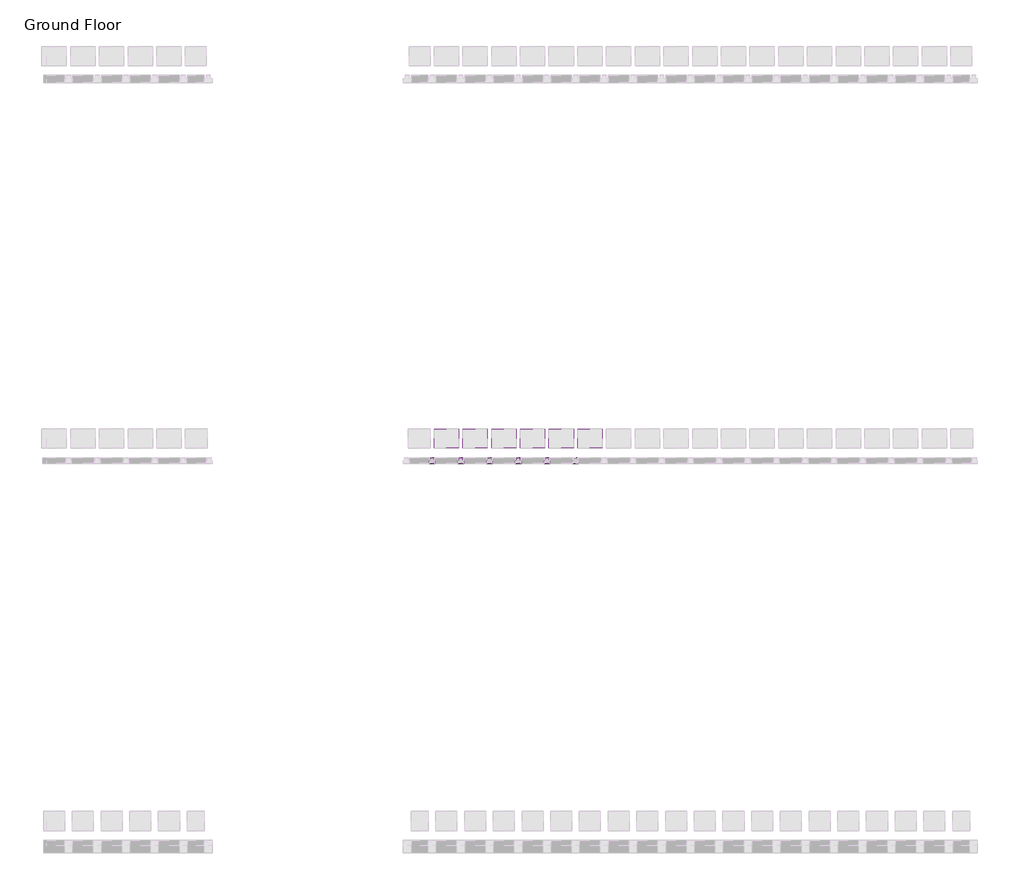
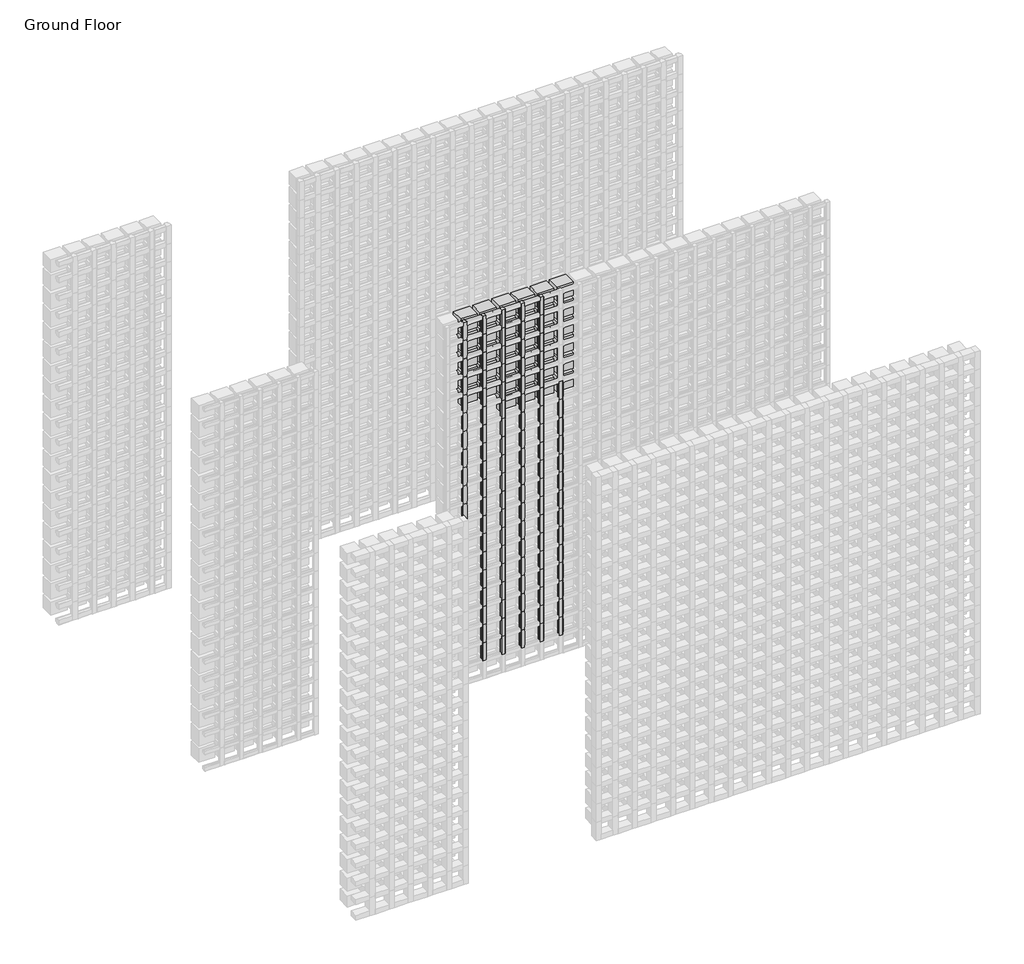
# One storey, part 104 of 350: 109 members, 34 plates.
"""IFC4 building model written with IfcOpenShell, lengths in millimetres."""

from ifc_helpers import new_model, si_unit, origin, place, context, project, spatial, transform, mapped, element, save
from components import rectangular_mullion_f1976eb1, empty_system_panel_empty_5a3607ba, empty_system_panel_empty_babc703c

model = new_model("IFC4")

# Units and contexts
model_context = context("Model", 3, world=origin())
ifc_project = project(units=[si_unit("LENGTHUNIT", "METRE", prefix="MILLI")], contexts=[model_context])

# Site, building, storey
site = spatial("IfcSite", under=ifc_project)
building = spatial("IfcBuilding", under=site)
storey = spatial("IfcBuildingStorey", under=building, Name="Ground Floor", Elevation=0.0)

# Members
placement = place(None, origin())
rectangular_mullion_shape = rectangular_mullion_f1976eb1(model_context)
element("IfcMember", 1, ObjectType="Rectangular Mullion : Batten_Timber_Modinex_Austratus_Grid_Fin_30x30_Blackbutt", at=placement, inside=storey, context=model_context, shape_type="MappedRepresentation", body=[
    mapped(rectangular_mullion_shape, transform((6066.4361642, 42968.2978302, 150.0), x_axis=(1.0, 0.0, 0.0), y_axis=(0.0, -1.0, 0.0), z_axis=(0.0, 0.0, -1.0))),
])
element("IfcMember", 2, ObjectType="Rectangular Mullion : Batten_Timber_Modinex_Austratus_Grid_Fin_30x30_Blackbutt", at=placement, inside=storey, context=model_context, shape_type="MappedRepresentation", body=[
    mapped(rectangular_mullion_shape, transform((6066.4361642, 42968.2978302, 300.0), x_axis=(1.0, 0.0, 0.0), y_axis=(0.0, -1.0, 0.0), z_axis=(0.0, 0.0, -1.0))),
])
element("IfcMember", 3, ObjectType="Rectangular Mullion : Batten_Timber_Modinex_Austratus_Grid_Fin_30x30_Blackbutt", at=placement, inside=storey, context=model_context, shape_type="MappedRepresentation", body=[
    mapped(rectangular_mullion_shape, transform((6066.4361642, 42968.2978302, 450.0), x_axis=(1.0, 0.0, 0.0), y_axis=(0.0, -1.0, 0.0), z_axis=(0.0, 0.0, -1.0))),
])
element("IfcMember", 4, ObjectType="Rectangular Mullion : Batten_Timber_Modinex_Austratus_Grid_Fin_30x30_Blackbutt", at=placement, inside=storey, context=model_context, shape_type="MappedRepresentation", body=[
    mapped(rectangular_mullion_shape, transform((6066.4361642, 42968.2978302, 600.0), x_axis=(1.0, 0.0, 0.0), y_axis=(0.0, -1.0, 0.0), z_axis=(0.0, 0.0, -1.0))),
])
element("IfcMember", 5, ObjectType="Rectangular Mullion : Batten_Timber_Modinex_Austratus_Grid_Fin_30x30_Blackbutt", at=placement, inside=storey, context=model_context, shape_type="MappedRepresentation", body=[
    mapped(rectangular_mullion_shape, transform((6066.4361642, 42968.2978302, 750.0), x_axis=(1.0, 0.0, 0.0), y_axis=(0.0, -1.0, 0.0), z_axis=(0.0, 0.0, -1.0))),
])
element("IfcMember", 6, ObjectType="Rectangular Mullion : Batten_Timber_Modinex_Austratus_Grid_Fin_30x30_Blackbutt", at=placement, inside=storey, context=model_context, shape_type="MappedRepresentation", body=[
    mapped(rectangular_mullion_shape, transform((6066.4361642, 42968.2978302, 900.0), x_axis=(1.0, 0.0, 0.0), y_axis=(0.0, -1.0, 0.0), z_axis=(0.0, 0.0, -1.0))),
])
element("IfcMember", 7, ObjectType="Rectangular Mullion : Batten_Timber_Modinex_Austratus_Grid_Fin_30x30_Blackbutt", at=placement, inside=storey, context=model_context, shape_type="MappedRepresentation", body=[
    mapped(rectangular_mullion_shape, transform((6066.4361642, 42968.2978302, 1050.0), x_axis=(1.0, 0.0, 0.0), y_axis=(0.0, -1.0, 0.0), z_axis=(0.0, 0.0, -1.0))),
])
element("IfcMember", 8, ObjectType="Rectangular Mullion : Batten_Timber_Modinex_Austratus_Grid_Fin_30x30_Blackbutt", at=placement, inside=storey, context=model_context, shape_type="MappedRepresentation", body=[
    mapped(rectangular_mullion_shape, transform((6066.4361642, 42968.2978302, 1200.0), x_axis=(1.0, 0.0, 0.0), y_axis=(0.0, -1.0, 0.0), z_axis=(0.0, 0.0, -1.0))),
])
element("IfcMember", 9, ObjectType="Rectangular Mullion : Batten_Timber_Modinex_Austratus_Grid_Fin_30x30_Blackbutt", at=placement, inside=storey, context=model_context, shape_type="MappedRepresentation", body=[
    mapped(rectangular_mullion_shape, transform((6066.4361642, 42968.2978302, 1350.0), x_axis=(1.0, 0.0, 0.0), y_axis=(0.0, -1.0, 0.0), z_axis=(0.0, 0.0, -1.0))),
])
element("IfcMember", 10, ObjectType="Rectangular Mullion : Batten_Timber_Modinex_Austratus_Grid_Fin_30x30_Blackbutt", at=placement, inside=storey, context=model_context, shape_type="MappedRepresentation", body=[
    mapped(rectangular_mullion_shape, transform((6066.4361642, 42968.2978302, 1500.0), x_axis=(1.0, 0.0, 0.0), y_axis=(0.0, -1.0, 0.0), z_axis=(0.0, 0.0, -1.0))),
])
element("IfcMember", 11, ObjectType="Rectangular Mullion : Batten_Timber_Modinex_Austratus_Grid_Fin_30x30_Blackbutt", at=placement, inside=storey, context=model_context, shape_type="MappedRepresentation", body=[
    mapped(rectangular_mullion_shape, transform((6066.4361642, 42968.2978302, 1650.0), x_axis=(1.0, 0.0, 0.0), y_axis=(0.0, -1.0, 0.0), z_axis=(0.0, 0.0, -1.0))),
])
element("IfcMember", 12, ObjectType="Rectangular Mullion : Batten_Timber_Modinex_Austratus_Grid_Fin_30x30_Blackbutt", at=placement, inside=storey, context=model_context, shape_type="MappedRepresentation", body=[
    mapped(rectangular_mullion_shape, transform((6066.4361642, 42968.2978302, 1800.0), x_axis=(1.0, 0.0, 0.0), y_axis=(0.0, -1.0, 0.0), z_axis=(0.0, 0.0, -1.0))),
])
element("IfcMember", 13, ObjectType="Rectangular Mullion : Batten_Timber_Modinex_Austratus_Grid_Fin_30x30_Blackbutt", at=placement, inside=storey, context=model_context, shape_type="MappedRepresentation", body=[
    mapped(rectangular_mullion_shape, transform((6066.4361642, 42968.2978302, 1950.0), x_axis=(1.0, 0.0, 0.0), y_axis=(0.0, -1.0, 0.0), z_axis=(0.0, 0.0, -1.0))),
])
element("IfcMember", 14, ObjectType="Rectangular Mullion : Batten_Timber_Modinex_Austratus_Grid_Fin_30x30_Blackbutt", at=placement, inside=storey, context=model_context, shape_type="MappedRepresentation", body=[
    mapped(rectangular_mullion_shape, transform((6066.4361642, 42968.2978302, 2100.0), x_axis=(1.0, 0.0, 0.0), y_axis=(0.0, -1.0, 0.0), z_axis=(0.0, 0.0, -1.0))),
])
element("IfcMember", 15, ObjectType="Rectangular Mullion : Batten_Timber_Modinex_Austratus_Grid_Fin_30x30_Blackbutt", at=placement, inside=storey, context=model_context, shape_type="MappedRepresentation", body=[
    mapped(rectangular_mullion_shape, transform((6066.4361642, 42968.2978302, 2250.0), x_axis=(1.0, 0.0, 0.0), y_axis=(0.0, -1.0, 0.0), z_axis=(0.0, 0.0, -1.0))),
])
element("IfcMember", 16, ObjectType="Rectangular Mullion : Batten_Timber_Modinex_Austratus_Grid_Fin_30x30_Blackbutt", at=placement, inside=storey, context=model_context, shape_type="MappedRepresentation", body=[
    mapped(rectangular_mullion_shape, transform((6066.4361642, 42968.2978302, 2400.0), x_axis=(1.0, 0.0, 0.0), y_axis=(0.0, -1.0, 0.0), z_axis=(0.0, 0.0, -1.0))),
])
element("IfcMember", 17, ObjectType="Rectangular Mullion : Batten_Timber_Modinex_Austratus_Grid_Fin_30x30_Blackbutt", at=placement, inside=storey, context=model_context, shape_type="MappedRepresentation", body=[
    mapped(rectangular_mullion_shape, transform((6066.4361642, 42968.2978302, 2550.0), x_axis=(1.0, 0.0, 0.0), y_axis=(0.0, -1.0, 0.0), z_axis=(0.0, 0.0, -1.0))),
])
element("IfcMember", 18, ObjectType="Rectangular Mullion : Batten_Timber_Modinex_Austratus_Grid_Fin_30x30_Blackbutt", at=placement, inside=storey, context=model_context, shape_type="MappedRepresentation", body=[
    mapped(rectangular_mullion_shape, transform((6066.4361642, 42968.2978302, 2700.0), x_axis=(1.0, 0.0, 0.0), y_axis=(0.0, -1.0, 0.0), z_axis=(0.0, 0.0, -1.0))),
])
element("IfcMember", 19, ObjectType="Rectangular Mullion : Batten_Timber_Modinex_Austratus_Grid_Fin_30x30_Blackbutt", at=placement, inside=storey, context=model_context, shape_type="MappedRepresentation", body=[
    mapped(rectangular_mullion_shape, transform((6216.4361642, 42968.2978302, 150.0), x_axis=(1.0, 0.0, 0.0), y_axis=(0.0, -1.0, 0.0), z_axis=(0.0, 0.0, -1.0))),
])
element("IfcMember", 20, ObjectType="Rectangular Mullion : Batten_Timber_Modinex_Austratus_Grid_Fin_30x30_Blackbutt", at=placement, inside=storey, context=model_context, shape_type="MappedRepresentation", body=[
    mapped(rectangular_mullion_shape, transform((6216.4361642, 42968.2978302, 300.0), x_axis=(1.0, 0.0, 0.0), y_axis=(0.0, -1.0, 0.0), z_axis=(0.0, 0.0, -1.0))),
])
element("IfcMember", 21, ObjectType="Rectangular Mullion : Batten_Timber_Modinex_Austratus_Grid_Fin_30x30_Blackbutt", at=placement, inside=storey, context=model_context, shape_type="MappedRepresentation", body=[
    mapped(rectangular_mullion_shape, transform((6216.4361642, 42968.2978302, 450.0), x_axis=(1.0, 0.0, 0.0), y_axis=(0.0, -1.0, 0.0), z_axis=(0.0, 0.0, -1.0))),
])
element("IfcMember", 22, ObjectType="Rectangular Mullion : Batten_Timber_Modinex_Austratus_Grid_Fin_30x30_Blackbutt", at=placement, inside=storey, context=model_context, shape_type="MappedRepresentation", body=[
    mapped(rectangular_mullion_shape, transform((6216.4361642, 42968.2978302, 600.0), x_axis=(1.0, 0.0, 0.0), y_axis=(0.0, -1.0, 0.0), z_axis=(0.0, 0.0, -1.0))),
])
element("IfcMember", 23, ObjectType="Rectangular Mullion : Batten_Timber_Modinex_Austratus_Grid_Fin_30x30_Blackbutt", at=placement, inside=storey, context=model_context, shape_type="MappedRepresentation", body=[
    mapped(rectangular_mullion_shape, transform((6216.4361642, 42968.2978302, 750.0), x_axis=(1.0, 0.0, 0.0), y_axis=(0.0, -1.0, 0.0), z_axis=(0.0, 0.0, -1.0))),
])
element("IfcMember", 24, ObjectType="Rectangular Mullion : Batten_Timber_Modinex_Austratus_Grid_Fin_30x30_Blackbutt", at=placement, inside=storey, context=model_context, shape_type="MappedRepresentation", body=[
    mapped(rectangular_mullion_shape, transform((6216.4361642, 42968.2978302, 900.0), x_axis=(1.0, 0.0, 0.0), y_axis=(0.0, -1.0, 0.0), z_axis=(0.0, 0.0, -1.0))),
])
element("IfcMember", 25, ObjectType="Rectangular Mullion : Batten_Timber_Modinex_Austratus_Grid_Fin_30x30_Blackbutt", at=placement, inside=storey, context=model_context, shape_type="MappedRepresentation", body=[
    mapped(rectangular_mullion_shape, transform((6216.4361642, 42968.2978302, 1050.0), x_axis=(1.0, 0.0, 0.0), y_axis=(0.0, -1.0, 0.0), z_axis=(0.0, 0.0, -1.0))),
])
element("IfcMember", 26, ObjectType="Rectangular Mullion : Batten_Timber_Modinex_Austratus_Grid_Fin_30x30_Blackbutt", at=placement, inside=storey, context=model_context, shape_type="MappedRepresentation", body=[
    mapped(rectangular_mullion_shape, transform((6216.4361642, 42968.2978302, 1200.0), x_axis=(1.0, 0.0, 0.0), y_axis=(0.0, -1.0, 0.0), z_axis=(0.0, 0.0, -1.0))),
])
element("IfcMember", 27, ObjectType="Rectangular Mullion : Batten_Timber_Modinex_Austratus_Grid_Fin_30x30_Blackbutt", at=placement, inside=storey, context=model_context, shape_type="MappedRepresentation", body=[
    mapped(rectangular_mullion_shape, transform((6216.4361642, 42968.2978302, 1350.0), x_axis=(1.0, 0.0, 0.0), y_axis=(0.0, -1.0, 0.0), z_axis=(0.0, 0.0, -1.0))),
])
element("IfcMember", 28, ObjectType="Rectangular Mullion : Batten_Timber_Modinex_Austratus_Grid_Fin_30x30_Blackbutt", at=placement, inside=storey, context=model_context, shape_type="MappedRepresentation", body=[
    mapped(rectangular_mullion_shape, transform((6216.4361642, 42968.2978302, 1500.0), x_axis=(1.0, 0.0, 0.0), y_axis=(0.0, -1.0, 0.0), z_axis=(0.0, 0.0, -1.0))),
])
element("IfcMember", 29, ObjectType="Rectangular Mullion : Batten_Timber_Modinex_Austratus_Grid_Fin_30x30_Blackbutt", at=placement, inside=storey, context=model_context, shape_type="MappedRepresentation", body=[
    mapped(rectangular_mullion_shape, transform((6216.4361642, 42968.2978302, 1650.0), x_axis=(1.0, 0.0, 0.0), y_axis=(0.0, -1.0, 0.0), z_axis=(0.0, 0.0, -1.0))),
])
element("IfcMember", 30, ObjectType="Rectangular Mullion : Batten_Timber_Modinex_Austratus_Grid_Fin_30x30_Blackbutt", at=placement, inside=storey, context=model_context, shape_type="MappedRepresentation", body=[
    mapped(rectangular_mullion_shape, transform((6216.4361642, 42968.2978302, 1800.0), x_axis=(1.0, 0.0, 0.0), y_axis=(0.0, -1.0, 0.0), z_axis=(0.0, 0.0, -1.0))),
])
element("IfcMember", 31, ObjectType="Rectangular Mullion : Batten_Timber_Modinex_Austratus_Grid_Fin_30x30_Blackbutt", at=placement, inside=storey, context=model_context, shape_type="MappedRepresentation", body=[
    mapped(rectangular_mullion_shape, transform((6216.4361642, 42968.2978302, 1950.0), x_axis=(1.0, 0.0, 0.0), y_axis=(0.0, -1.0, 0.0), z_axis=(0.0, 0.0, -1.0))),
])
element("IfcMember", 32, ObjectType="Rectangular Mullion : Batten_Timber_Modinex_Austratus_Grid_Fin_30x30_Blackbutt", at=placement, inside=storey, context=model_context, shape_type="MappedRepresentation", body=[
    mapped(rectangular_mullion_shape, transform((6216.4361642, 42968.2978302, 2100.0), x_axis=(1.0, 0.0, 0.0), y_axis=(0.0, -1.0, 0.0), z_axis=(0.0, 0.0, -1.0))),
])
element("IfcMember", 33, ObjectType="Rectangular Mullion : Batten_Timber_Modinex_Austratus_Grid_Fin_30x30_Blackbutt", at=placement, inside=storey, context=model_context, shape_type="MappedRepresentation", body=[
    mapped(rectangular_mullion_shape, transform((6216.4361642, 42968.2978302, 2250.0), x_axis=(1.0, 0.0, 0.0), y_axis=(0.0, -1.0, 0.0), z_axis=(0.0, 0.0, -1.0))),
])
element("IfcMember", 34, ObjectType="Rectangular Mullion : Batten_Timber_Modinex_Austratus_Grid_Fin_30x30_Blackbutt", at=placement, inside=storey, context=model_context, shape_type="MappedRepresentation", body=[
    mapped(rectangular_mullion_shape, transform((6216.4361642, 42968.2978302, 2400.0), x_axis=(1.0, 0.0, 0.0), y_axis=(0.0, -1.0, 0.0), z_axis=(0.0, 0.0, -1.0))),
])
element("IfcMember", 35, ObjectType="Rectangular Mullion : Batten_Timber_Modinex_Austratus_Grid_Fin_30x30_Blackbutt", at=placement, inside=storey, context=model_context, shape_type="MappedRepresentation", body=[
    mapped(rectangular_mullion_shape, transform((6216.4361642, 42968.2978302, 2550.0), x_axis=(1.0, 0.0, 0.0), y_axis=(0.0, -1.0, 0.0), z_axis=(0.0, 0.0, -1.0))),
])
element("IfcMember", 36, ObjectType="Rectangular Mullion : Batten_Timber_Modinex_Austratus_Grid_Fin_30x30_Blackbutt", at=placement, inside=storey, context=model_context, shape_type="MappedRepresentation", body=[
    mapped(rectangular_mullion_shape, transform((6216.4361642, 42968.2978302, 2700.0), x_axis=(1.0, 0.0, 0.0), y_axis=(0.0, -1.0, 0.0), z_axis=(0.0, 0.0, -1.0))),
])
element("IfcMember", 37, ObjectType="Rectangular Mullion : Batten_Timber_Modinex_Austratus_Grid_Fin_30x30_Blackbutt", at=placement, inside=storey, context=model_context, shape_type="MappedRepresentation", body=[
    mapped(rectangular_mullion_shape, transform((6366.4361642, 42968.2978302, 150.0), x_axis=(1.0, 0.0, 0.0), y_axis=(0.0, -1.0, 0.0), z_axis=(0.0, 0.0, -1.0))),
])
element("IfcMember", 38, ObjectType="Rectangular Mullion : Batten_Timber_Modinex_Austratus_Grid_Fin_30x30_Blackbutt", at=placement, inside=storey, context=model_context, shape_type="MappedRepresentation", body=[
    mapped(rectangular_mullion_shape, transform((6366.4361642, 42968.2978302, 300.0), x_axis=(1.0, 0.0, 0.0), y_axis=(0.0, -1.0, 0.0), z_axis=(0.0, 0.0, -1.0))),
])
element("IfcMember", 39, ObjectType="Rectangular Mullion : Batten_Timber_Modinex_Austratus_Grid_Fin_30x30_Blackbutt", at=placement, inside=storey, context=model_context, shape_type="MappedRepresentation", body=[
    mapped(rectangular_mullion_shape, transform((6366.4361642, 42968.2978302, 450.0), x_axis=(1.0, 0.0, 0.0), y_axis=(0.0, -1.0, 0.0), z_axis=(0.0, 0.0, -1.0))),
])
element("IfcMember", 40, ObjectType="Rectangular Mullion : Batten_Timber_Modinex_Austratus_Grid_Fin_30x30_Blackbutt", at=placement, inside=storey, context=model_context, shape_type="MappedRepresentation", body=[
    mapped(rectangular_mullion_shape, transform((6366.4361642, 42968.2978302, 600.0), x_axis=(1.0, 0.0, 0.0), y_axis=(0.0, -1.0, 0.0), z_axis=(0.0, 0.0, -1.0))),
])
element("IfcMember", 41, ObjectType="Rectangular Mullion : Batten_Timber_Modinex_Austratus_Grid_Fin_30x30_Blackbutt", at=placement, inside=storey, context=model_context, shape_type="MappedRepresentation", body=[
    mapped(rectangular_mullion_shape, transform((6366.4361642, 42968.2978302, 750.0), x_axis=(1.0, 0.0, 0.0), y_axis=(0.0, -1.0, 0.0), z_axis=(0.0, 0.0, -1.0))),
])
element("IfcMember", 42, ObjectType="Rectangular Mullion : Batten_Timber_Modinex_Austratus_Grid_Fin_30x30_Blackbutt", at=placement, inside=storey, context=model_context, shape_type="MappedRepresentation", body=[
    mapped(rectangular_mullion_shape, transform((6366.4361642, 42968.2978302, 900.0), x_axis=(1.0, 0.0, 0.0), y_axis=(0.0, -1.0, 0.0), z_axis=(0.0, 0.0, -1.0))),
])
element("IfcMember", 43, ObjectType="Rectangular Mullion : Batten_Timber_Modinex_Austratus_Grid_Fin_30x30_Blackbutt", at=placement, inside=storey, context=model_context, shape_type="MappedRepresentation", body=[
    mapped(rectangular_mullion_shape, transform((6366.4361642, 42968.2978302, 1050.0), x_axis=(1.0, 0.0, 0.0), y_axis=(0.0, -1.0, 0.0), z_axis=(0.0, 0.0, -1.0))),
])
element("IfcMember", 44, ObjectType="Rectangular Mullion : Batten_Timber_Modinex_Austratus_Grid_Fin_30x30_Blackbutt", at=placement, inside=storey, context=model_context, shape_type="MappedRepresentation", body=[
    mapped(rectangular_mullion_shape, transform((6366.4361642, 42968.2978302, 1200.0), x_axis=(1.0, 0.0, 0.0), y_axis=(0.0, -1.0, 0.0), z_axis=(0.0, 0.0, -1.0))),
])
element("IfcMember", 45, ObjectType="Rectangular Mullion : Batten_Timber_Modinex_Austratus_Grid_Fin_30x30_Blackbutt", at=placement, inside=storey, context=model_context, shape_type="MappedRepresentation", body=[
    mapped(rectangular_mullion_shape, transform((6366.4361642, 42968.2978302, 1350.0), x_axis=(1.0, 0.0, 0.0), y_axis=(0.0, -1.0, 0.0), z_axis=(0.0, 0.0, -1.0))),
])
element("IfcMember", 46, ObjectType="Rectangular Mullion : Batten_Timber_Modinex_Austratus_Grid_Fin_30x30_Blackbutt", at=placement, inside=storey, context=model_context, shape_type="MappedRepresentation", body=[
    mapped(rectangular_mullion_shape, transform((6366.4361642, 42968.2978302, 1500.0), x_axis=(1.0, 0.0, 0.0), y_axis=(0.0, -1.0, 0.0), z_axis=(0.0, 0.0, -1.0))),
])
element("IfcMember", 47, ObjectType="Rectangular Mullion : Batten_Timber_Modinex_Austratus_Grid_Fin_30x30_Blackbutt", at=placement, inside=storey, context=model_context, shape_type="MappedRepresentation", body=[
    mapped(rectangular_mullion_shape, transform((6366.4361642, 42968.2978302, 1650.0), x_axis=(1.0, 0.0, 0.0), y_axis=(0.0, -1.0, 0.0), z_axis=(0.0, 0.0, -1.0))),
])
element("IfcMember", 48, ObjectType="Rectangular Mullion : Batten_Timber_Modinex_Austratus_Grid_Fin_30x30_Blackbutt", at=placement, inside=storey, context=model_context, shape_type="MappedRepresentation", body=[
    mapped(rectangular_mullion_shape, transform((6366.4361642, 42968.2978302, 1800.0), x_axis=(1.0, 0.0, 0.0), y_axis=(0.0, -1.0, 0.0), z_axis=(0.0, 0.0, -1.0))),
])
element("IfcMember", 49, ObjectType="Rectangular Mullion : Batten_Timber_Modinex_Austratus_Grid_Fin_30x30_Blackbutt", at=placement, inside=storey, context=model_context, shape_type="MappedRepresentation", body=[
    mapped(rectangular_mullion_shape, transform((6366.4361642, 42968.2978302, 1950.0), x_axis=(1.0, 0.0, 0.0), y_axis=(0.0, -1.0, 0.0), z_axis=(0.0, 0.0, -1.0))),
])
element("IfcMember", 50, ObjectType="Rectangular Mullion : Batten_Timber_Modinex_Austratus_Grid_Fin_30x30_Blackbutt", at=placement, inside=storey, context=model_context, shape_type="MappedRepresentation", body=[
    mapped(rectangular_mullion_shape, transform((6366.4361642, 42968.2978302, 2100.0), x_axis=(1.0, 0.0, 0.0), y_axis=(0.0, -1.0, 0.0), z_axis=(0.0, 0.0, -1.0))),
])
element("IfcMember", 51, ObjectType="Rectangular Mullion : Batten_Timber_Modinex_Austratus_Grid_Fin_30x30_Blackbutt", at=placement, inside=storey, context=model_context, shape_type="MappedRepresentation", body=[
    mapped(rectangular_mullion_shape, transform((6366.4361642, 42968.2978302, 2250.0), x_axis=(1.0, 0.0, 0.0), y_axis=(0.0, -1.0, 0.0), z_axis=(0.0, 0.0, -1.0))),
])
element("IfcMember", 52, ObjectType="Rectangular Mullion : Batten_Timber_Modinex_Austratus_Grid_Fin_30x30_Blackbutt", at=placement, inside=storey, context=model_context, shape_type="MappedRepresentation", body=[
    mapped(rectangular_mullion_shape, transform((6366.4361642, 42968.2978302, 2400.0), x_axis=(1.0, 0.0, 0.0), y_axis=(0.0, -1.0, 0.0), z_axis=(0.0, 0.0, -1.0))),
])
element("IfcMember", 53, ObjectType="Rectangular Mullion : Batten_Timber_Modinex_Austratus_Grid_Fin_30x30_Blackbutt", at=placement, inside=storey, context=model_context, shape_type="MappedRepresentation", body=[
    mapped(rectangular_mullion_shape, transform((6366.4361642, 42968.2978302, 2550.0), x_axis=(1.0, 0.0, 0.0), y_axis=(0.0, -1.0, 0.0), z_axis=(0.0, 0.0, -1.0))),
])
element("IfcMember", 54, ObjectType="Rectangular Mullion : Batten_Timber_Modinex_Austratus_Grid_Fin_30x30_Blackbutt", at=placement, inside=storey, context=model_context, shape_type="MappedRepresentation", body=[
    mapped(rectangular_mullion_shape, transform((6366.4361642, 42968.2978302, 2700.0), x_axis=(1.0, 0.0, 0.0), y_axis=(0.0, -1.0, 0.0), z_axis=(0.0, 0.0, -1.0))),
])
element("IfcMember", 55, ObjectType="Rectangular Mullion : Batten_Timber_Modinex_Austratus_Grid_Fin_30x30_Blackbutt", at=placement, inside=storey, context=model_context, shape_type="MappedRepresentation", body=[
    mapped(rectangular_mullion_shape, transform((6516.4361642, 42968.2978302, 150.0), x_axis=(1.0, 0.0, 0.0), y_axis=(0.0, -1.0, 0.0), z_axis=(0.0, 0.0, -1.0))),
])
element("IfcMember", 56, ObjectType="Rectangular Mullion : Batten_Timber_Modinex_Austratus_Grid_Fin_30x30_Blackbutt", at=placement, inside=storey, context=model_context, shape_type="MappedRepresentation", body=[
    mapped(rectangular_mullion_shape, transform((6516.4361642, 42968.2978302, 300.0), x_axis=(1.0, 0.0, 0.0), y_axis=(0.0, -1.0, 0.0), z_axis=(0.0, 0.0, -1.0))),
])
element("IfcMember", 57, ObjectType="Rectangular Mullion : Batten_Timber_Modinex_Austratus_Grid_Fin_30x30_Blackbutt", at=placement, inside=storey, context=model_context, shape_type="MappedRepresentation", body=[
    mapped(rectangular_mullion_shape, transform((6516.4361642, 42968.2978302, 450.0), x_axis=(1.0, 0.0, 0.0), y_axis=(0.0, -1.0, 0.0), z_axis=(0.0, 0.0, -1.0))),
])
element("IfcMember", 58, ObjectType="Rectangular Mullion : Batten_Timber_Modinex_Austratus_Grid_Fin_30x30_Blackbutt", at=placement, inside=storey, context=model_context, shape_type="MappedRepresentation", body=[
    mapped(rectangular_mullion_shape, transform((6516.4361642, 42968.2978302, 600.0), x_axis=(1.0, 0.0, 0.0), y_axis=(0.0, -1.0, 0.0), z_axis=(0.0, 0.0, -1.0))),
])
element("IfcMember", 59, ObjectType="Rectangular Mullion : Batten_Timber_Modinex_Austratus_Grid_Fin_30x30_Blackbutt", at=placement, inside=storey, context=model_context, shape_type="MappedRepresentation", body=[
    mapped(rectangular_mullion_shape, transform((6516.4361642, 42968.2978302, 750.0), x_axis=(1.0, 0.0, 0.0), y_axis=(0.0, -1.0, 0.0), z_axis=(0.0, 0.0, -1.0))),
])
element("IfcMember", 60, ObjectType="Rectangular Mullion : Batten_Timber_Modinex_Austratus_Grid_Fin_30x30_Blackbutt", at=placement, inside=storey, context=model_context, shape_type="MappedRepresentation", body=[
    mapped(rectangular_mullion_shape, transform((6516.4361642, 42968.2978302, 900.0), x_axis=(1.0, 0.0, 0.0), y_axis=(0.0, -1.0, 0.0), z_axis=(0.0, 0.0, -1.0))),
])
element("IfcMember", 61, ObjectType="Rectangular Mullion : Batten_Timber_Modinex_Austratus_Grid_Fin_30x30_Blackbutt", at=placement, inside=storey, context=model_context, shape_type="MappedRepresentation", body=[
    mapped(rectangular_mullion_shape, transform((6516.4361642, 42968.2978302, 1050.0), x_axis=(1.0, 0.0, 0.0), y_axis=(0.0, -1.0, 0.0), z_axis=(0.0, 0.0, -1.0))),
])
element("IfcMember", 62, ObjectType="Rectangular Mullion : Batten_Timber_Modinex_Austratus_Grid_Fin_30x30_Blackbutt", at=placement, inside=storey, context=model_context, shape_type="MappedRepresentation", body=[
    mapped(rectangular_mullion_shape, transform((6516.4361642, 42968.2978302, 1200.0), x_axis=(1.0, 0.0, 0.0), y_axis=(0.0, -1.0, 0.0), z_axis=(0.0, 0.0, -1.0))),
])
element("IfcMember", 63, ObjectType="Rectangular Mullion : Batten_Timber_Modinex_Austratus_Grid_Fin_30x30_Blackbutt", at=placement, inside=storey, context=model_context, shape_type="MappedRepresentation", body=[
    mapped(rectangular_mullion_shape, transform((6516.4361642, 42968.2978302, 1350.0), x_axis=(1.0, 0.0, 0.0), y_axis=(0.0, -1.0, 0.0), z_axis=(0.0, 0.0, -1.0))),
])
element("IfcMember", 64, ObjectType="Rectangular Mullion : Batten_Timber_Modinex_Austratus_Grid_Fin_30x30_Blackbutt", at=placement, inside=storey, context=model_context, shape_type="MappedRepresentation", body=[
    mapped(rectangular_mullion_shape, transform((6516.4361642, 42968.2978302, 1500.0), x_axis=(1.0, 0.0, 0.0), y_axis=(0.0, -1.0, 0.0), z_axis=(0.0, 0.0, -1.0))),
])
element("IfcMember", 65, ObjectType="Rectangular Mullion : Batten_Timber_Modinex_Austratus_Grid_Fin_30x30_Blackbutt", at=placement, inside=storey, context=model_context, shape_type="MappedRepresentation", body=[
    mapped(rectangular_mullion_shape, transform((6516.4361642, 42968.2978302, 1650.0), x_axis=(1.0, 0.0, 0.0), y_axis=(0.0, -1.0, 0.0), z_axis=(0.0, 0.0, -1.0))),
])
element("IfcMember", 66, ObjectType="Rectangular Mullion : Batten_Timber_Modinex_Austratus_Grid_Fin_30x30_Blackbutt", at=placement, inside=storey, context=model_context, shape_type="MappedRepresentation", body=[
    mapped(rectangular_mullion_shape, transform((6516.4361642, 42968.2978302, 1800.0), x_axis=(1.0, 0.0, 0.0), y_axis=(0.0, -1.0, 0.0), z_axis=(0.0, 0.0, -1.0))),
])
element("IfcMember", 67, ObjectType="Rectangular Mullion : Batten_Timber_Modinex_Austratus_Grid_Fin_30x30_Blackbutt", at=placement, inside=storey, context=model_context, shape_type="MappedRepresentation", body=[
    mapped(rectangular_mullion_shape, transform((6516.4361642, 42968.2978302, 1950.0), x_axis=(1.0, 0.0, 0.0), y_axis=(0.0, -1.0, 0.0), z_axis=(0.0, 0.0, -1.0))),
])
element("IfcMember", 68, ObjectType="Rectangular Mullion : Batten_Timber_Modinex_Austratus_Grid_Fin_30x30_Blackbutt", at=placement, inside=storey, context=model_context, shape_type="MappedRepresentation", body=[
    mapped(rectangular_mullion_shape, transform((6516.4361642, 42968.2978302, 2100.0), x_axis=(1.0, 0.0, 0.0), y_axis=(0.0, -1.0, 0.0), z_axis=(0.0, 0.0, -1.0))),
])
element("IfcMember", 69, ObjectType="Rectangular Mullion : Batten_Timber_Modinex_Austratus_Grid_Fin_30x30_Blackbutt", at=placement, inside=storey, context=model_context, shape_type="MappedRepresentation", body=[
    mapped(rectangular_mullion_shape, transform((6516.4361642, 42968.2978302, 2250.0), x_axis=(1.0, 0.0, 0.0), y_axis=(0.0, -1.0, 0.0), z_axis=(0.0, 0.0, -1.0))),
])
element("IfcMember", 70, ObjectType="Rectangular Mullion : Batten_Timber_Modinex_Austratus_Grid_Fin_30x30_Blackbutt", at=placement, inside=storey, context=model_context, shape_type="MappedRepresentation", body=[
    mapped(rectangular_mullion_shape, transform((6516.4361642, 42968.2978302, 2400.0), x_axis=(1.0, 0.0, 0.0), y_axis=(0.0, -1.0, 0.0), z_axis=(0.0, 0.0, -1.0))),
])
element("IfcMember", 71, ObjectType="Rectangular Mullion : Batten_Timber_Modinex_Austratus_Grid_Fin_30x30_Blackbutt", at=placement, inside=storey, context=model_context, shape_type="MappedRepresentation", body=[
    mapped(rectangular_mullion_shape, transform((6516.4361642, 42968.2978302, 2550.0), x_axis=(1.0, 0.0, 0.0), y_axis=(0.0, -1.0, 0.0), z_axis=(0.0, 0.0, -1.0))),
])
element("IfcMember", 72, ObjectType="Rectangular Mullion : Batten_Timber_Modinex_Austratus_Grid_Fin_30x30_Blackbutt", at=placement, inside=storey, context=model_context, shape_type="MappedRepresentation", body=[
    mapped(rectangular_mullion_shape, transform((6516.4361642, 42968.2978302, 2700.0), x_axis=(1.0, 0.0, 0.0), y_axis=(0.0, -1.0, 0.0), z_axis=(0.0, 0.0, -1.0))),
])
element("IfcMember", 73, ObjectType="Rectangular Mullion : Batten_Timber_Modinex_Austratus_Grid_Fin_30x30_Blackbutt", at=placement, inside=storey, context=model_context, shape_type="MappedRepresentation", body=[
    mapped(rectangular_mullion_shape, transform((6666.4361642, 42968.2978302, 150.0), x_axis=(1.0, 0.0, 0.0), y_axis=(0.0, -1.0, 0.0), z_axis=(0.0, 0.0, -1.0))),
])
element("IfcMember", 74, ObjectType="Rectangular Mullion : Batten_Timber_Modinex_Austratus_Grid_Fin_30x30_Blackbutt", at=placement, inside=storey, context=model_context, shape_type="MappedRepresentation", body=[
    mapped(rectangular_mullion_shape, transform((6666.4361642, 42968.2978302, 300.0), x_axis=(1.0, 0.0, 0.0), y_axis=(0.0, -1.0, 0.0), z_axis=(0.0, 0.0, -1.0))),
])
element("IfcMember", 75, ObjectType="Rectangular Mullion : Batten_Timber_Modinex_Austratus_Grid_Fin_30x30_Blackbutt", at=placement, inside=storey, context=model_context, shape_type="MappedRepresentation", body=[
    mapped(rectangular_mullion_shape, transform((6666.4361642, 42968.2978302, 450.0), x_axis=(1.0, 0.0, 0.0), y_axis=(0.0, -1.0, 0.0), z_axis=(0.0, 0.0, -1.0))),
])
element("IfcMember", 76, ObjectType="Rectangular Mullion : Batten_Timber_Modinex_Austratus_Grid_Fin_30x30_Blackbutt", at=placement, inside=storey, context=model_context, shape_type="MappedRepresentation", body=[
    mapped(rectangular_mullion_shape, transform((6666.4361642, 42968.2978302, 600.0), x_axis=(1.0, 0.0, 0.0), y_axis=(0.0, -1.0, 0.0), z_axis=(0.0, 0.0, -1.0))),
])
element("IfcMember", 77, ObjectType="Rectangular Mullion : Batten_Timber_Modinex_Austratus_Grid_Fin_30x30_Blackbutt", at=placement, inside=storey, context=model_context, shape_type="MappedRepresentation", body=[
    mapped(rectangular_mullion_shape, transform((6666.4361642, 42968.2978302, 750.0), x_axis=(1.0, 0.0, 0.0), y_axis=(0.0, -1.0, 0.0), z_axis=(0.0, 0.0, -1.0))),
])
element("IfcMember", 78, ObjectType="Rectangular Mullion : Batten_Timber_Modinex_Austratus_Grid_Fin_30x30_Blackbutt", at=placement, inside=storey, context=model_context, shape_type="MappedRepresentation", body=[
    mapped(rectangular_mullion_shape, transform((6666.4361642, 42968.2978302, 900.0), x_axis=(1.0, 0.0, 0.0), y_axis=(0.0, -1.0, 0.0), z_axis=(0.0, 0.0, -1.0))),
])
element("IfcMember", 79, ObjectType="Rectangular Mullion : Batten_Timber_Modinex_Austratus_Grid_Fin_30x30_Blackbutt", at=placement, inside=storey, context=model_context, shape_type="MappedRepresentation", body=[
    mapped(rectangular_mullion_shape, transform((6666.4361642, 42968.2978302, 1050.0), x_axis=(1.0, 0.0, 0.0), y_axis=(0.0, -1.0, 0.0), z_axis=(0.0, 0.0, -1.0))),
])
element("IfcMember", 80, ObjectType="Rectangular Mullion : Batten_Timber_Modinex_Austratus_Grid_Fin_30x30_Blackbutt", at=placement, inside=storey, context=model_context, shape_type="MappedRepresentation", body=[
    mapped(rectangular_mullion_shape, transform((6666.4361642, 42968.2978302, 1200.0), x_axis=(1.0, 0.0, 0.0), y_axis=(0.0, -1.0, 0.0), z_axis=(0.0, 0.0, -1.0))),
])
element("IfcMember", 81, ObjectType="Rectangular Mullion : Batten_Timber_Modinex_Austratus_Grid_Fin_30x30_Blackbutt", at=placement, inside=storey, context=model_context, shape_type="MappedRepresentation", body=[
    mapped(rectangular_mullion_shape, transform((6666.4361642, 42968.2978302, 1350.0), x_axis=(1.0, 0.0, 0.0), y_axis=(0.0, -1.0, 0.0), z_axis=(0.0, 0.0, -1.0))),
])
element("IfcMember", 82, ObjectType="Rectangular Mullion : Batten_Timber_Modinex_Austratus_Grid_Fin_30x30_Blackbutt", at=placement, inside=storey, context=model_context, shape_type="MappedRepresentation", body=[
    mapped(rectangular_mullion_shape, transform((6666.4361642, 42968.2978302, 1500.0), x_axis=(1.0, 0.0, 0.0), y_axis=(0.0, -1.0, 0.0), z_axis=(0.0, 0.0, -1.0))),
])
element("IfcMember", 83, ObjectType="Rectangular Mullion : Batten_Timber_Modinex_Austratus_Grid_Fin_30x30_Blackbutt", at=placement, inside=storey, context=model_context, shape_type="MappedRepresentation", body=[
    mapped(rectangular_mullion_shape, transform((6666.4361642, 42968.2978302, 1650.0), x_axis=(1.0, 0.0, 0.0), y_axis=(0.0, -1.0, 0.0), z_axis=(0.0, 0.0, -1.0))),
])
element("IfcMember", 84, ObjectType="Rectangular Mullion : Batten_Timber_Modinex_Austratus_Grid_Fin_30x30_Blackbutt", at=placement, inside=storey, context=model_context, shape_type="MappedRepresentation", body=[
    mapped(rectangular_mullion_shape, transform((6666.4361642, 42968.2978302, 1800.0), x_axis=(1.0, 0.0, 0.0), y_axis=(0.0, -1.0, 0.0), z_axis=(0.0, 0.0, -1.0))),
])
element("IfcMember", 85, ObjectType="Rectangular Mullion : Batten_Timber_Modinex_Austratus_Grid_Fin_30x30_Blackbutt", at=placement, inside=storey, context=model_context, shape_type="MappedRepresentation", body=[
    mapped(rectangular_mullion_shape, transform((6666.4361642, 42968.2978302, 1950.0), x_axis=(1.0, 0.0, 0.0), y_axis=(0.0, -1.0, 0.0), z_axis=(0.0, 0.0, -1.0))),
])
element("IfcMember", 86, ObjectType="Rectangular Mullion : Batten_Timber_Modinex_Austratus_Grid_Fin_30x30_Blackbutt", at=placement, inside=storey, context=model_context, shape_type="MappedRepresentation", body=[
    mapped(rectangular_mullion_shape, transform((6666.4361642, 42968.2978302, 2100.0), x_axis=(1.0, 0.0, 0.0), y_axis=(0.0, -1.0, 0.0), z_axis=(0.0, 0.0, -1.0))),
])
element("IfcMember", 87, ObjectType="Rectangular Mullion : Batten_Timber_Modinex_Austratus_Grid_Fin_30x30_Blackbutt", at=placement, inside=storey, context=model_context, shape_type="MappedRepresentation", body=[
    mapped(rectangular_mullion_shape, transform((6666.4361642, 42968.2978302, 2250.0), x_axis=(1.0, 0.0, 0.0), y_axis=(0.0, -1.0, 0.0), z_axis=(0.0, 0.0, -1.0))),
])
element("IfcMember", 88, ObjectType="Rectangular Mullion : Batten_Timber_Modinex_Austratus_Grid_Fin_30x30_Blackbutt", at=placement, inside=storey, context=model_context, shape_type="MappedRepresentation", body=[
    mapped(rectangular_mullion_shape, transform((6666.4361642, 42968.2978302, 2400.0), x_axis=(1.0, 0.0, 0.0), y_axis=(0.0, -1.0, 0.0), z_axis=(0.0, 0.0, -1.0))),
])
element("IfcMember", 89, ObjectType="Rectangular Mullion : Batten_Timber_Modinex_Austratus_Grid_Fin_30x30_Blackbutt", at=placement, inside=storey, context=model_context, shape_type="MappedRepresentation", body=[
    mapped(rectangular_mullion_shape, transform((6666.4361642, 42968.2978302, 2550.0), x_axis=(1.0, 0.0, 0.0), y_axis=(0.0, -1.0, 0.0), z_axis=(0.0, 0.0, -1.0))),
])
element("IfcMember", 90, ObjectType="Rectangular Mullion : Batten_Timber_Modinex_Austratus_Grid_Fin_30x30_Blackbutt", at=placement, inside=storey, context=model_context, shape_type="MappedRepresentation", body=[
    mapped(rectangular_mullion_shape, transform((6666.4361642, 42968.2978302, 2700.0), x_axis=(1.0, 0.0, 0.0), y_axis=(0.0, -1.0, 0.0), z_axis=(0.0, 0.0, -1.0))),
])
element("IfcMember", 91, ObjectType="Rectangular Mullion : Batten_Timber_Modinex_Austratus_Grid_Fin_30x30_Blackbutt", at=placement, inside=storey, context=model_context, shape_type="MappedRepresentation", body=[
    mapped(rectangular_mullion_shape, transform((6816.4361642, 42968.2978302, 150.0), x_axis=(1.0, 0.0, 0.0), y_axis=(0.0, -1.0, 0.0), z_axis=(0.0, 0.0, -1.0))),
])
element("IfcMember", 92, ObjectType="Rectangular Mullion : Batten_Timber_Modinex_Austratus_Grid_Fin_30x30_Blackbutt", at=placement, inside=storey, context=model_context, shape_type="MappedRepresentation", body=[
    mapped(rectangular_mullion_shape, transform((6816.4361642, 42968.2978302, 300.0), x_axis=(1.0, 0.0, 0.0), y_axis=(0.0, -1.0, 0.0), z_axis=(0.0, 0.0, -1.0))),
])
element("IfcMember", 93, ObjectType="Rectangular Mullion : Batten_Timber_Modinex_Austratus_Grid_Fin_30x30_Blackbutt", at=placement, inside=storey, context=model_context, shape_type="MappedRepresentation", body=[
    mapped(rectangular_mullion_shape, transform((6816.4361642, 42968.2978302, 450.0), x_axis=(1.0, 0.0, 0.0), y_axis=(0.0, -1.0, 0.0), z_axis=(0.0, 0.0, -1.0))),
])
element("IfcMember", 94, ObjectType="Rectangular Mullion : Batten_Timber_Modinex_Austratus_Grid_Fin_30x30_Blackbutt", at=placement, inside=storey, context=model_context, shape_type="MappedRepresentation", body=[
    mapped(rectangular_mullion_shape, transform((6816.4361642, 42968.2978302, 600.0), x_axis=(1.0, 0.0, 0.0), y_axis=(0.0, -1.0, 0.0), z_axis=(0.0, 0.0, -1.0))),
])
element("IfcMember", 95, ObjectType="Rectangular Mullion : Batten_Timber_Modinex_Austratus_Grid_Fin_30x30_Blackbutt", at=placement, inside=storey, context=model_context, shape_type="MappedRepresentation", body=[
    mapped(rectangular_mullion_shape, transform((6816.4361642, 42968.2978302, 750.0), x_axis=(1.0, 0.0, 0.0), y_axis=(0.0, -1.0, 0.0), z_axis=(0.0, 0.0, -1.0))),
])
element("IfcMember", 96, ObjectType="Rectangular Mullion : Batten_Timber_Modinex_Austratus_Grid_Fin_30x30_Blackbutt", at=placement, inside=storey, context=model_context, shape_type="MappedRepresentation", body=[
    mapped(rectangular_mullion_shape, transform((6816.4361642, 42968.2978302, 900.0), x_axis=(1.0, 0.0, 0.0), y_axis=(0.0, -1.0, 0.0), z_axis=(0.0, 0.0, -1.0))),
])
element("IfcMember", 97, ObjectType="Rectangular Mullion : Batten_Timber_Modinex_Austratus_Grid_Fin_30x30_Blackbutt", at=placement, inside=storey, context=model_context, shape_type="MappedRepresentation", body=[
    mapped(rectangular_mullion_shape, transform((6816.4361642, 42968.2978302, 1050.0), x_axis=(1.0, 0.0, 0.0), y_axis=(0.0, -1.0, 0.0), z_axis=(0.0, 0.0, -1.0))),
])
element("IfcMember", 98, ObjectType="Rectangular Mullion : Batten_Timber_Modinex_Austratus_Grid_Fin_30x30_Blackbutt", at=placement, inside=storey, context=model_context, shape_type="MappedRepresentation", body=[
    mapped(rectangular_mullion_shape, transform((6816.4361642, 42968.2978302, 1200.0), x_axis=(1.0, 0.0, 0.0), y_axis=(0.0, -1.0, 0.0), z_axis=(0.0, 0.0, -1.0))),
])
element("IfcMember", 99, ObjectType="Rectangular Mullion : Batten_Timber_Modinex_Austratus_Grid_Fin_30x30_Blackbutt", at=placement, inside=storey, context=model_context, shape_type="MappedRepresentation", body=[
    mapped(rectangular_mullion_shape, transform((6816.4361642, 42968.2978302, 1350.0), x_axis=(1.0, 0.0, 0.0), y_axis=(0.0, -1.0, 0.0), z_axis=(0.0, 0.0, -1.0))),
])
element("IfcMember", 100, ObjectType="Rectangular Mullion : Batten_Timber_Modinex_Austratus_Grid_Fin_30x30_Blackbutt", at=placement, inside=storey, context=model_context, shape_type="MappedRepresentation", body=[
    mapped(rectangular_mullion_shape, transform((6816.4361642, 42968.2978302, 1500.0), x_axis=(1.0, 0.0, 0.0), y_axis=(0.0, -1.0, 0.0), z_axis=(0.0, 0.0, -1.0))),
])
element("IfcMember", 101, ObjectType="Rectangular Mullion : Batten_Timber_Modinex_Austratus_Grid_Fin_30x30_Blackbutt", at=placement, inside=storey, context=model_context, shape_type="MappedRepresentation", body=[
    mapped(rectangular_mullion_shape, transform((6816.4361642, 42968.2978302, 1650.0), x_axis=(1.0, 0.0, 0.0), y_axis=(0.0, -1.0, 0.0), z_axis=(0.0, 0.0, -1.0))),
])
element("IfcMember", 102, ObjectType="Rectangular Mullion : Batten_Timber_Modinex_Austratus_Grid_Fin_30x30_Blackbutt", at=placement, inside=storey, context=model_context, shape_type="MappedRepresentation", body=[
    mapped(rectangular_mullion_shape, transform((6816.4361642, 42968.2978302, 1800.0), x_axis=(1.0, 0.0, 0.0), y_axis=(0.0, -1.0, 0.0), z_axis=(0.0, 0.0, -1.0))),
])
element("IfcMember", 103, ObjectType="Rectangular Mullion : Batten_Timber_Modinex_Austratus_Grid_Fin_30x30_Blackbutt", at=placement, inside=storey, context=model_context, shape_type="MappedRepresentation", body=[
    mapped(rectangular_mullion_shape, transform((6816.4361642, 42968.2978302, 1950.0), x_axis=(1.0, 0.0, 0.0), y_axis=(0.0, -1.0, 0.0), z_axis=(0.0, 0.0, -1.0))),
])
element("IfcMember", 104, ObjectType="Rectangular Mullion : Batten_Timber_Modinex_Austratus_Grid_Fin_30x30_Blackbutt", at=placement, inside=storey, context=model_context, shape_type="MappedRepresentation", body=[
    mapped(rectangular_mullion_shape, transform((6816.4361642, 42968.2978302, 2100.0), x_axis=(1.0, 0.0, 0.0), y_axis=(0.0, -1.0, 0.0), z_axis=(0.0, 0.0, -1.0))),
])
element("IfcMember", 105, ObjectType="Rectangular Mullion : Batten_Timber_Modinex_Austratus_Grid_Fin_30x30_Blackbutt", at=placement, inside=storey, context=model_context, shape_type="MappedRepresentation", body=[
    mapped(rectangular_mullion_shape, transform((6066.4361642, 42968.2978302, 2850.0), x_axis=(1.0, 0.0, 0.0), y_axis=(0.0, -1.0, 0.0), z_axis=(0.0, 0.0, -1.0))),
])
element("IfcMember", 106, ObjectType="Rectangular Mullion : Batten_Timber_Modinex_Austratus_Grid_Fin_30x30_Blackbutt", at=placement, inside=storey, context=model_context, shape_type="MappedRepresentation", body=[
    mapped(rectangular_mullion_shape, transform((6216.4361642, 42968.2978302, 2850.0), x_axis=(1.0, 0.0, 0.0), y_axis=(0.0, -1.0, 0.0), z_axis=(0.0, 0.0, -1.0))),
])
element("IfcMember", 107, ObjectType="Rectangular Mullion : Batten_Timber_Modinex_Austratus_Grid_Fin_30x30_Blackbutt", at=placement, inside=storey, context=model_context, shape_type="MappedRepresentation", body=[
    mapped(rectangular_mullion_shape, transform((6366.4361642, 42968.2978302, 2850.0), x_axis=(1.0, 0.0, 0.0), y_axis=(0.0, -1.0, 0.0), z_axis=(0.0, 0.0, -1.0))),
])
element("IfcMember", 108, ObjectType="Rectangular Mullion : Batten_Timber_Modinex_Austratus_Grid_Fin_30x30_Blackbutt", at=placement, inside=storey, context=model_context, shape_type="MappedRepresentation", body=[
    mapped(rectangular_mullion_shape, transform((6516.4361642, 42968.2978302, 2850.0), x_axis=(1.0, 0.0, 0.0), y_axis=(0.0, -1.0, 0.0), z_axis=(0.0, 0.0, -1.0))),
])
element("IfcMember", 109, ObjectType="Rectangular Mullion : Batten_Timber_Modinex_Austratus_Grid_Fin_30x30_Blackbutt", at=placement, inside=storey, context=model_context, shape_type="MappedRepresentation", body=[
    mapped(rectangular_mullion_shape, transform((6666.4361642, 42968.2978302, 2850.0), x_axis=(1.0, 0.0, 0.0), y_axis=(0.0, -1.0, 0.0), z_axis=(0.0, 0.0, -1.0))),
])

# Plates
empty_system_panel_empty_shape = empty_system_panel_empty_5a3607ba(model_context)
element("IfcPlate", 110, ObjectType="Empty System Panel : Empty", at=placement, inside=storey, context=model_context, shape_type="MappedRepresentation", body=[
    mapped(empty_system_panel_empty_shape, transform((6441.4361642, 42968.2978302, 2110.812195), x_axis=(1.0, 0.0, 0.0), y_axis=(0.0, 1.0, 0.0), z_axis=(0.0, 0.0, 1.0))),
])
element("IfcPlate", 111, ObjectType="Empty System Panel : Empty", at=placement, inside=storey, context=model_context, shape_type="MappedRepresentation", body=[
    mapped(empty_system_panel_empty_shape, transform((6591.4361642, 42968.2978302, 2110.812195), x_axis=(1.0, 0.0, 0.0), y_axis=(0.0, 1.0, 0.0), z_axis=(0.0, 0.0, 1.0))),
])
element("IfcPlate", 112, ObjectType="Empty System Panel : Empty", at=placement, inside=storey, context=model_context, shape_type="MappedRepresentation", body=[
    mapped(empty_system_panel_empty_shape, transform((6741.4361642, 42968.2978302, 2110.812195), x_axis=(1.0, 0.0, 0.0), y_axis=(0.0, 1.0, 0.0), z_axis=(0.0, 0.0, 1.0))),
])
element("IfcPlate", 113, ObjectType="Empty System Panel : Empty", at=placement, inside=storey, context=model_context, shape_type="MappedRepresentation", body=[
    mapped(empty_system_panel_empty_shape, transform((6891.4361642, 42968.2978302, 2110.812195), x_axis=(1.0, 0.0, 0.0), y_axis=(0.0, 1.0, 0.0), z_axis=(0.0, 0.0, 1.0))),
])
element("IfcPlate", 114, ObjectType="Empty System Panel : Empty", at=placement, inside=storey, context=model_context, shape_type="MappedRepresentation", body=[
    mapped(empty_system_panel_empty_shape, transform((6141.4361642, 42968.2978302, 2260.812195), x_axis=(1.0, 0.0, 0.0), y_axis=(0.0, 1.0, 0.0), z_axis=(0.0, 0.0, 1.0))),
])
element("IfcPlate", 115, ObjectType="Empty System Panel : Empty", at=placement, inside=storey, context=model_context, shape_type="MappedRepresentation", body=[
    mapped(empty_system_panel_empty_shape, transform((6291.4361642, 42968.2978302, 2260.812195), x_axis=(1.0, 0.0, 0.0), y_axis=(0.0, 1.0, 0.0), z_axis=(0.0, 0.0, 1.0))),
])
element("IfcPlate", 116, ObjectType="Empty System Panel : Empty", at=placement, inside=storey, context=model_context, shape_type="MappedRepresentation", body=[
    mapped(empty_system_panel_empty_shape, transform((6441.4361642, 42968.2978302, 2260.812195), x_axis=(1.0, 0.0, 0.0), y_axis=(0.0, 1.0, 0.0), z_axis=(0.0, 0.0, 1.0))),
])
element("IfcPlate", 117, ObjectType="Empty System Panel : Empty", at=placement, inside=storey, context=model_context, shape_type="MappedRepresentation", body=[
    mapped(empty_system_panel_empty_shape, transform((6591.4361642, 42968.2978302, 2260.812195), x_axis=(1.0, 0.0, 0.0), y_axis=(0.0, 1.0, 0.0), z_axis=(0.0, 0.0, 1.0))),
])
element("IfcPlate", 118, ObjectType="Empty System Panel : Empty", at=placement, inside=storey, context=model_context, shape_type="MappedRepresentation", body=[
    mapped(empty_system_panel_empty_shape, transform((6741.4361642, 42968.2978302, 2260.812195), x_axis=(1.0, 0.0, 0.0), y_axis=(0.0, 1.0, 0.0), z_axis=(0.0, 0.0, 1.0))),
])
element("IfcPlate", 119, ObjectType="Empty System Panel : Empty", at=placement, inside=storey, context=model_context, shape_type="MappedRepresentation", body=[
    mapped(empty_system_panel_empty_shape, transform((6891.4361642, 42968.2978302, 2260.812195), x_axis=(1.0, 0.0, 0.0), y_axis=(0.0, 1.0, 0.0), z_axis=(0.0, 0.0, 1.0))),
])
element("IfcPlate", 120, ObjectType="Empty System Panel : Empty", at=placement, inside=storey, context=model_context, shape_type="MappedRepresentation", body=[
    mapped(empty_system_panel_empty_shape, transform((6141.4361642, 42968.2978302, 2410.812195), x_axis=(1.0, 0.0, 0.0), y_axis=(0.0, 1.0, 0.0), z_axis=(0.0, 0.0, 1.0))),
])
element("IfcPlate", 121, ObjectType="Empty System Panel : Empty", at=placement, inside=storey, context=model_context, shape_type="MappedRepresentation", body=[
    mapped(empty_system_panel_empty_shape, transform((6291.4361642, 42968.2978302, 2410.812195), x_axis=(1.0, 0.0, 0.0), y_axis=(0.0, 1.0, 0.0), z_axis=(0.0, 0.0, 1.0))),
])
element("IfcPlate", 122, ObjectType="Empty System Panel : Empty", at=placement, inside=storey, context=model_context, shape_type="MappedRepresentation", body=[
    mapped(empty_system_panel_empty_shape, transform((6441.4361642, 42968.2978302, 2410.812195), x_axis=(1.0, 0.0, 0.0), y_axis=(0.0, 1.0, 0.0), z_axis=(0.0, 0.0, 1.0))),
])
element("IfcPlate", 123, ObjectType="Empty System Panel : Empty", at=placement, inside=storey, context=model_context, shape_type="MappedRepresentation", body=[
    mapped(empty_system_panel_empty_shape, transform((6591.4361642, 42968.2978302, 2410.812195), x_axis=(1.0, 0.0, 0.0), y_axis=(0.0, 1.0, 0.0), z_axis=(0.0, 0.0, 1.0))),
])
element("IfcPlate", 124, ObjectType="Empty System Panel : Empty", at=placement, inside=storey, context=model_context, shape_type="MappedRepresentation", body=[
    mapped(empty_system_panel_empty_shape, transform((6741.4361642, 42968.2978302, 2410.812195), x_axis=(1.0, 0.0, 0.0), y_axis=(0.0, 1.0, 0.0), z_axis=(0.0, 0.0, 1.0))),
])
element("IfcPlate", 125, ObjectType="Empty System Panel : Empty", at=placement, inside=storey, context=model_context, shape_type="MappedRepresentation", body=[
    mapped(empty_system_panel_empty_shape, transform((6891.4361642, 42968.2978302, 2410.812195), x_axis=(1.0, 0.0, 0.0), y_axis=(0.0, 1.0, 0.0), z_axis=(0.0, 0.0, 1.0))),
])
element("IfcPlate", 126, ObjectType="Empty System Panel : Empty", at=placement, inside=storey, context=model_context, shape_type="MappedRepresentation", body=[
    mapped(empty_system_panel_empty_shape, transform((6141.4361642, 42968.2978302, 2560.812195), x_axis=(1.0, 0.0, 0.0), y_axis=(0.0, 1.0, 0.0), z_axis=(0.0, 0.0, 1.0))),
])
element("IfcPlate", 127, ObjectType="Empty System Panel : Empty", at=placement, inside=storey, context=model_context, shape_type="MappedRepresentation", body=[
    mapped(empty_system_panel_empty_shape, transform((6291.4361642, 42968.2978302, 2560.812195), x_axis=(1.0, 0.0, 0.0), y_axis=(0.0, 1.0, 0.0), z_axis=(0.0, 0.0, 1.0))),
])
element("IfcPlate", 128, ObjectType="Empty System Panel : Empty", at=placement, inside=storey, context=model_context, shape_type="MappedRepresentation", body=[
    mapped(empty_system_panel_empty_shape, transform((6441.4361642, 42968.2978302, 2560.812195), x_axis=(1.0, 0.0, 0.0), y_axis=(0.0, 1.0, 0.0), z_axis=(0.0, 0.0, 1.0))),
])
element("IfcPlate", 129, ObjectType="Empty System Panel : Empty", at=placement, inside=storey, context=model_context, shape_type="MappedRepresentation", body=[
    mapped(empty_system_panel_empty_shape, transform((6591.4361642, 42968.2978302, 2560.812195), x_axis=(1.0, 0.0, 0.0), y_axis=(0.0, 1.0, 0.0), z_axis=(0.0, 0.0, 1.0))),
])
element("IfcPlate", 130, ObjectType="Empty System Panel : Empty", at=placement, inside=storey, context=model_context, shape_type="MappedRepresentation", body=[
    mapped(empty_system_panel_empty_shape, transform((6741.4361642, 42968.2978302, 2560.812195), x_axis=(1.0, 0.0, 0.0), y_axis=(0.0, 1.0, 0.0), z_axis=(0.0, 0.0, 1.0))),
])
element("IfcPlate", 131, ObjectType="Empty System Panel : Empty", at=placement, inside=storey, context=model_context, shape_type="MappedRepresentation", body=[
    mapped(empty_system_panel_empty_shape, transform((6891.4361642, 42968.2978302, 2560.812195), x_axis=(1.0, 0.0, 0.0), y_axis=(0.0, 1.0, 0.0), z_axis=(0.0, 0.0, 1.0))),
])
element("IfcPlate", 132, ObjectType="Empty System Panel : Empty", at=placement, inside=storey, context=model_context, shape_type="MappedRepresentation", body=[
    mapped(empty_system_panel_empty_shape, transform((6141.4361642, 42968.2978302, 2710.812195), x_axis=(1.0, 0.0, 0.0), y_axis=(0.0, 1.0, 0.0), z_axis=(0.0, 0.0, 1.0))),
])
element("IfcPlate", 133, ObjectType="Empty System Panel : Empty", at=placement, inside=storey, context=model_context, shape_type="MappedRepresentation", body=[
    mapped(empty_system_panel_empty_shape, transform((6291.4361642, 42968.2978302, 2710.812195), x_axis=(1.0, 0.0, 0.0), y_axis=(0.0, 1.0, 0.0), z_axis=(0.0, 0.0, 1.0))),
])
element("IfcPlate", 134, ObjectType="Empty System Panel : Empty", at=placement, inside=storey, context=model_context, shape_type="MappedRepresentation", body=[
    mapped(empty_system_panel_empty_shape, transform((6441.4361642, 42968.2978302, 2710.812195), x_axis=(1.0, 0.0, 0.0), y_axis=(0.0, 1.0, 0.0), z_axis=(0.0, 0.0, 1.0))),
])
element("IfcPlate", 135, ObjectType="Empty System Panel : Empty", at=placement, inside=storey, context=model_context, shape_type="MappedRepresentation", body=[
    mapped(empty_system_panel_empty_shape, transform((6591.4361642, 42968.2978302, 2710.812195), x_axis=(1.0, 0.0, 0.0), y_axis=(0.0, 1.0, 0.0), z_axis=(0.0, 0.0, 1.0))),
])
element("IfcPlate", 136, ObjectType="Empty System Panel : Empty", at=placement, inside=storey, context=model_context, shape_type="MappedRepresentation", body=[
    mapped(empty_system_panel_empty_shape, transform((6741.4361642, 42968.2978302, 2710.812195), x_axis=(1.0, 0.0, 0.0), y_axis=(0.0, 1.0, 0.0), z_axis=(0.0, 0.0, 1.0))),
])
element("IfcPlate", 137, ObjectType="Empty System Panel : Empty", at=placement, inside=storey, context=model_context, shape_type="MappedRepresentation", body=[
    mapped(empty_system_panel_empty_shape, transform((6891.4361642, 42968.2978302, 2710.812195), x_axis=(1.0, 0.0, 0.0), y_axis=(0.0, 1.0, 0.0), z_axis=(0.0, 0.0, 1.0))),
])
empty_system_panel_empty_2_shape = empty_system_panel_empty_babc703c(model_context)
element("IfcPlate", 138, ObjectType="Empty System Panel : Empty", at=placement, inside=storey, context=model_context, shape_type="MappedRepresentation", body=[
    mapped(empty_system_panel_empty_2_shape, transform((6141.4361642, 42968.2978302, 2860.812195), x_axis=(1.0, 0.0, 0.0), y_axis=(0.0, 1.0, 0.0), z_axis=(0.0, 0.0, 1.0))),
])
element("IfcPlate", 139, ObjectType="Empty System Panel : Empty", at=placement, inside=storey, context=model_context, shape_type="MappedRepresentation", body=[
    mapped(empty_system_panel_empty_2_shape, transform((6291.4361642, 42968.2978302, 2860.812195), x_axis=(1.0, 0.0, 0.0), y_axis=(0.0, 1.0, 0.0), z_axis=(0.0, 0.0, 1.0))),
])
element("IfcPlate", 140, ObjectType="Empty System Panel : Empty", at=placement, inside=storey, context=model_context, shape_type="MappedRepresentation", body=[
    mapped(empty_system_panel_empty_2_shape, transform((6441.4361642, 42968.2978302, 2860.812195), x_axis=(1.0, 0.0, 0.0), y_axis=(0.0, 1.0, 0.0), z_axis=(0.0, 0.0, 1.0))),
])
element("IfcPlate", 141, ObjectType="Empty System Panel : Empty", at=placement, inside=storey, context=model_context, shape_type="MappedRepresentation", body=[
    mapped(empty_system_panel_empty_2_shape, transform((6591.4361642, 42968.2978302, 2860.812195), x_axis=(1.0, 0.0, 0.0), y_axis=(0.0, 1.0, 0.0), z_axis=(0.0, 0.0, 1.0))),
])
element("IfcPlate", 142, ObjectType="Empty System Panel : Empty", at=placement, inside=storey, context=model_context, shape_type="MappedRepresentation", body=[
    mapped(empty_system_panel_empty_2_shape, transform((6741.4361642, 42968.2978302, 2860.812195), x_axis=(1.0, 0.0, 0.0), y_axis=(0.0, 1.0, 0.0), z_axis=(0.0, 0.0, 1.0))),
])
element("IfcPlate", 143, ObjectType="Empty System Panel : Empty", at=placement, inside=storey, context=model_context, shape_type="MappedRepresentation", body=[
    mapped(empty_system_panel_empty_2_shape, transform((6891.4361642, 42968.2978302, 2860.812195), x_axis=(1.0, 0.0, 0.0), y_axis=(0.0, 1.0, 0.0), z_axis=(0.0, 0.0, 1.0))),
])

save(model, "model.ifc")
